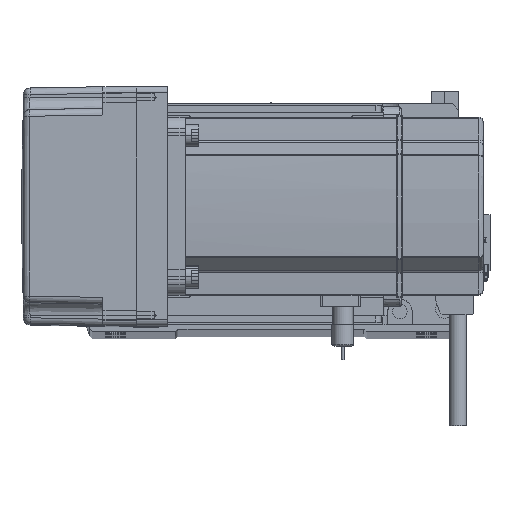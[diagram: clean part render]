
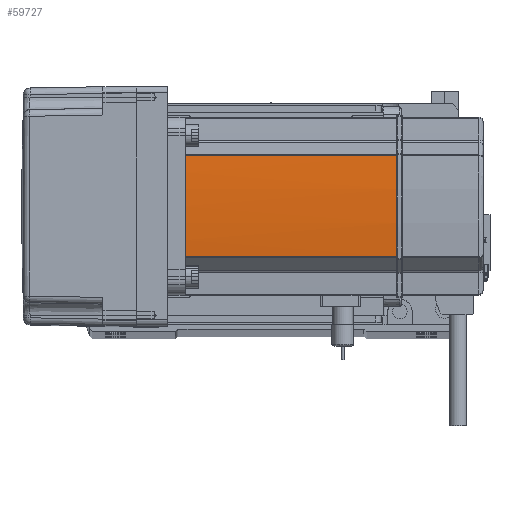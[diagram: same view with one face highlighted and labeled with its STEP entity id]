
A CAD part, top view. The second image highlights one B-rep face of the part: STEP entity #59727.
In plain terms, the highlighted cylindrical face has radius 270 mm (diameter 540 mm), a partial arc.
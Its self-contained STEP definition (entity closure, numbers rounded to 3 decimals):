
#498 = VERTEX_POINT ( 'NONE', #45564 ) ;
#646 = ORIENTED_EDGE ( 'NONE', *, *, #39893, .T. ) ;
#1830 = EDGE_CURVE ( 'NONE', #33540, #34324, #19758, .T. ) ;
#5409 = DIRECTION ( 'NONE',  ( 0., 0., -1. ) ) ;
#6286 = VECTOR ( 'NONE', #54677, 1000. ) ;
#7043 = AXIS2_PLACEMENT_3D ( 'NONE', #32862, #5409, #14256 ) ;
#7431 = EDGE_CURVE ( 'NONE', #26184, #9781, #41942, .T. ) ;
#9039 = ORIENTED_EDGE ( 'NONE', *, *, #46079, .T. ) ;
#9781 = VERTEX_POINT ( 'NONE', #51473 ) ;
#9830 = CARTESIAN_POINT ( 'NONE',  ( 40., -0.042, 134. ) ) ;
#10996 = CARTESIAN_POINT ( 'NONE',  ( 39.042, -22.724, 58. ) ) ;
#13092 = ORIENTED_EDGE ( 'NONE', *, *, #42719, .T. ) ;
#13275 = CARTESIAN_POINT ( 'NONE',  ( -230., 0., 58. ) ) ;
#14256 = DIRECTION ( 'NONE',  ( -1., 0., 0. ) ) ;
#14764 = VERTEX_POINT ( 'NONE', #52451 ) ;
#16634 = CIRCLE ( 'NONE', #49681, 270. ) ;
#17762 = FACE_OUTER_BOUND ( 'NONE', #20866, .T. ) ;
#18029 = DIRECTION ( 'NONE',  ( -1., 0., 0. ) ) ;
#19758 = B_SPLINE_CURVE_WITH_KNOTS ( 'NONE', 3,
 ( #51580, #9830, #56726, #37555 ),
 .UNSPECIFIED., .F., .F.,
 ( 4, 4 ),
 ( 0., 1. ),
 .UNSPECIFIED. ) ;
#20555 = DIRECTION ( 'NONE',  ( 0., 0., -1. ) ) ;
#20866 = EDGE_LOOP ( 'NONE', ( #9039, #42293, #646, #52098, #46248, #13092 ) ) ;
#21661 = CARTESIAN_POINT ( 'NONE',  ( -230., 0., 134. ) ) ;
#22878 = CARTESIAN_POINT ( 'NONE',  ( 40., -0.127, 134. ) ) ;
#24498 = CARTESIAN_POINT ( 'NONE',  ( -230., 0., 39. ) ) ;
#25669 = DIRECTION ( 'NONE',  ( 0., 0., -1. ) ) ;
#26184 = VERTEX_POINT ( 'NONE', #40086 ) ;
#27012 = CARTESIAN_POINT ( 'NONE',  ( 39.042, 22.724, 58. ) ) ;
#31371 = AXIS2_PLACEMENT_3D ( 'NONE', #24498, #20555, #38755 ) ;
#31397 = LINE ( 'NONE', #27012, #6286 ) ;
#32057 = CARTESIAN_POINT ( 'NONE',  ( 40., 0.127, 134. ) ) ;
#32862 = CARTESIAN_POINT ( 'NONE',  ( -230., 0., 134. ) ) ;
#33540 = VERTEX_POINT ( 'NONE', #22878 ) ;
#34324 = VERTEX_POINT ( 'NONE', #32057 ) ;
#35501 = CYLINDRICAL_SURFACE ( 'NONE', #59073, 270. ) ;
#37045 = EDGE_CURVE ( 'NONE', #498, #34324, #54335, .T. ) ;
#37555 = CARTESIAN_POINT ( 'NONE',  ( 40., 0.127, 134. ) ) ;
#38755 = DIRECTION ( 'NONE',  ( -1., 0., 0. ) ) ;
#39893 = EDGE_CURVE ( 'NONE', #26184, #498, #31397, .T. ) ;
#40086 = CARTESIAN_POINT ( 'NONE',  ( 39.042, 22.724, 39. ) ) ;
#41942 = CIRCLE ( 'NONE', #31371, 270. ) ;
#42293 = ORIENTED_EDGE ( 'NONE', *, *, #7431, .F. ) ;
#42364 = LINE ( 'NONE', #10996, #55660 ) ;
#42719 = EDGE_CURVE ( 'NONE', #33540, #14764, #16634, .T. ) ;
#45564 = CARTESIAN_POINT ( 'NONE',  ( 39.042, 22.724, 134. ) ) ;
#45622 = DIRECTION ( 'NONE',  ( 0., 0., -1. ) ) ;
#46079 = EDGE_CURVE ( 'NONE', #14764, #9781, #42364, .T. ) ;
#46248 = ORIENTED_EDGE ( 'NONE', *, *, #1830, .F. ) ;
#49681 = AXIS2_PLACEMENT_3D ( 'NONE', #21661, #45622, #54904 ) ;
#51473 = CARTESIAN_POINT ( 'NONE',  ( 39.042, -22.724, 39. ) ) ;
#51580 = CARTESIAN_POINT ( 'NONE',  ( 40., -0.127, 134. ) ) ;
#52098 = ORIENTED_EDGE ( 'NONE', *, *, #37045, .T. ) ;
#52451 = CARTESIAN_POINT ( 'NONE',  ( 39.042, -22.724, 134. ) ) ;
#54335 = CIRCLE ( 'NONE', #7043, 270. ) ;
#54677 = DIRECTION ( 'NONE',  ( 0., 0., 1. ) ) ;
#54904 = DIRECTION ( 'NONE',  ( -1., 0., 0. ) ) ;
#55660 = VECTOR ( 'NONE', #25669, 1000. ) ;
#56726 = CARTESIAN_POINT ( 'NONE',  ( 40., 0.042, 134. ) ) ;
#59073 = AXIS2_PLACEMENT_3D ( 'NONE', #13275, #60782, #18029 ) ;
#59727 = ADVANCED_FACE ( 'NONE', ( #17762 ), #35501, .T. ) ;
#60782 = DIRECTION ( 'NONE',  ( 0., 0., -1. ) ) ;
